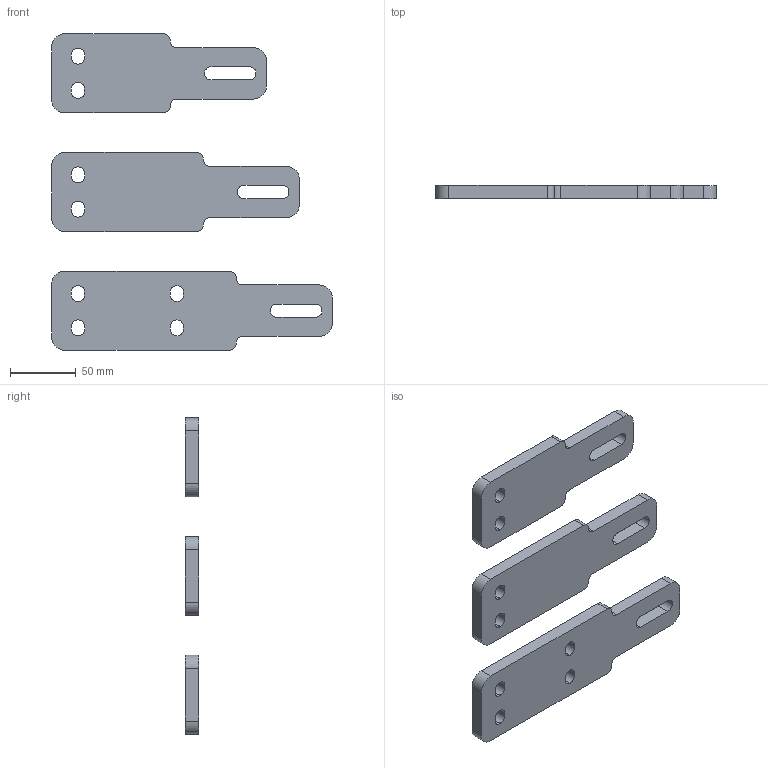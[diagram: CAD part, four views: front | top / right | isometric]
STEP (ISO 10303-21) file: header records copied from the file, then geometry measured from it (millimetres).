
FILE_DESCRIPTION (( 'STEP AP214' ), '1' );
FILE_NAME ('04683.STEP', '2018-01-22T14:44:13', ( '' ), ( '' ), 'SwSTEP 2.0', 'SolidWorks 2015', '' );
FILE_SCHEMA (( 'AUTOMOTIVE_DESIGN' ));
Length unit declared in the file: millimetre
Products named in the file (4): 04683-3_D‚faut-(01); 04683-2_D‚faut-(01); 04683; 04683-1_D‚faut-(01)
Assembly tree (3 placements, depth 2):
  04683
    04683-1_D‚faut-(01)
    04683-2_D‚faut-(01)
    04683-3_D‚faut-(01)
Bounding box: 213 x 10 x 240 mm (x, y, z)
Volume: 270801.9 mm3; surface area: 73802.5 mm2
Topology: 3 solids, 3 shells, 142 faces, 408 edges, 272 vertices
Faces by surface type: plane 74, cylinder 68
Entity records: 4886 total; most frequent: DIRECTION 840, CARTESIAN_POINT 828, ORIENTED_EDGE 816, EDGE_CURVE 408, AXIS2_PLACEMENT_3D 284, LINE 272, VERTEX_POINT 272, VECTOR 272
